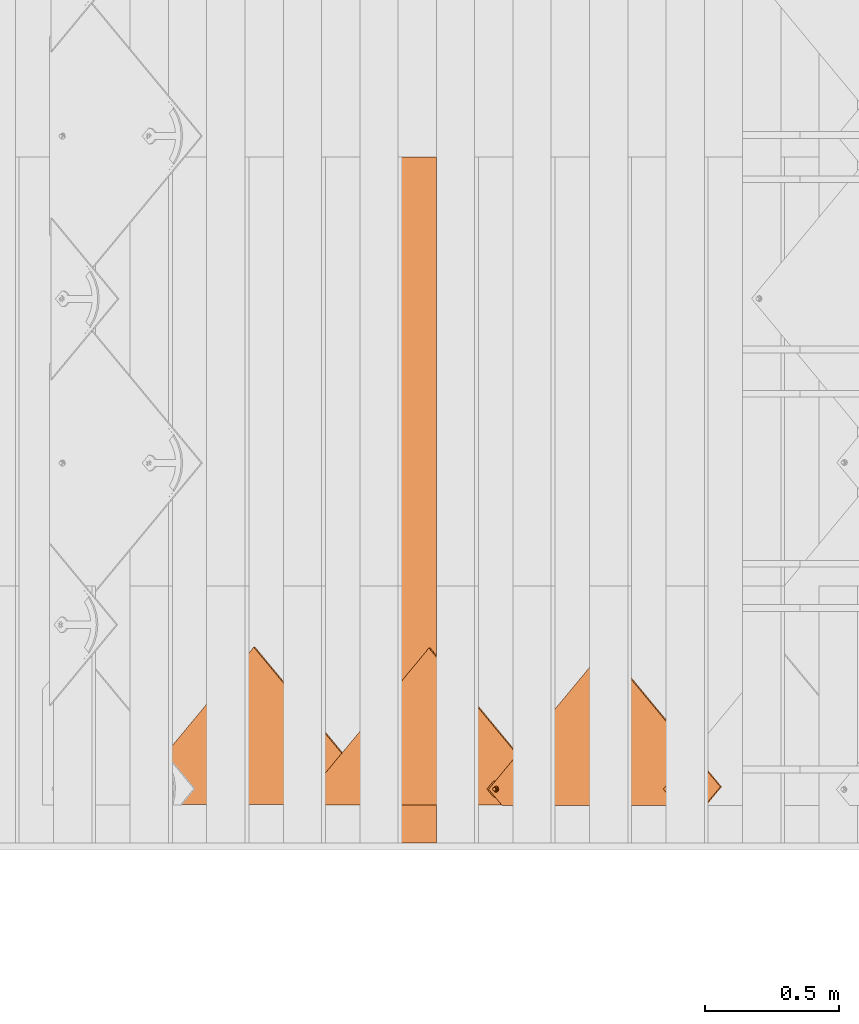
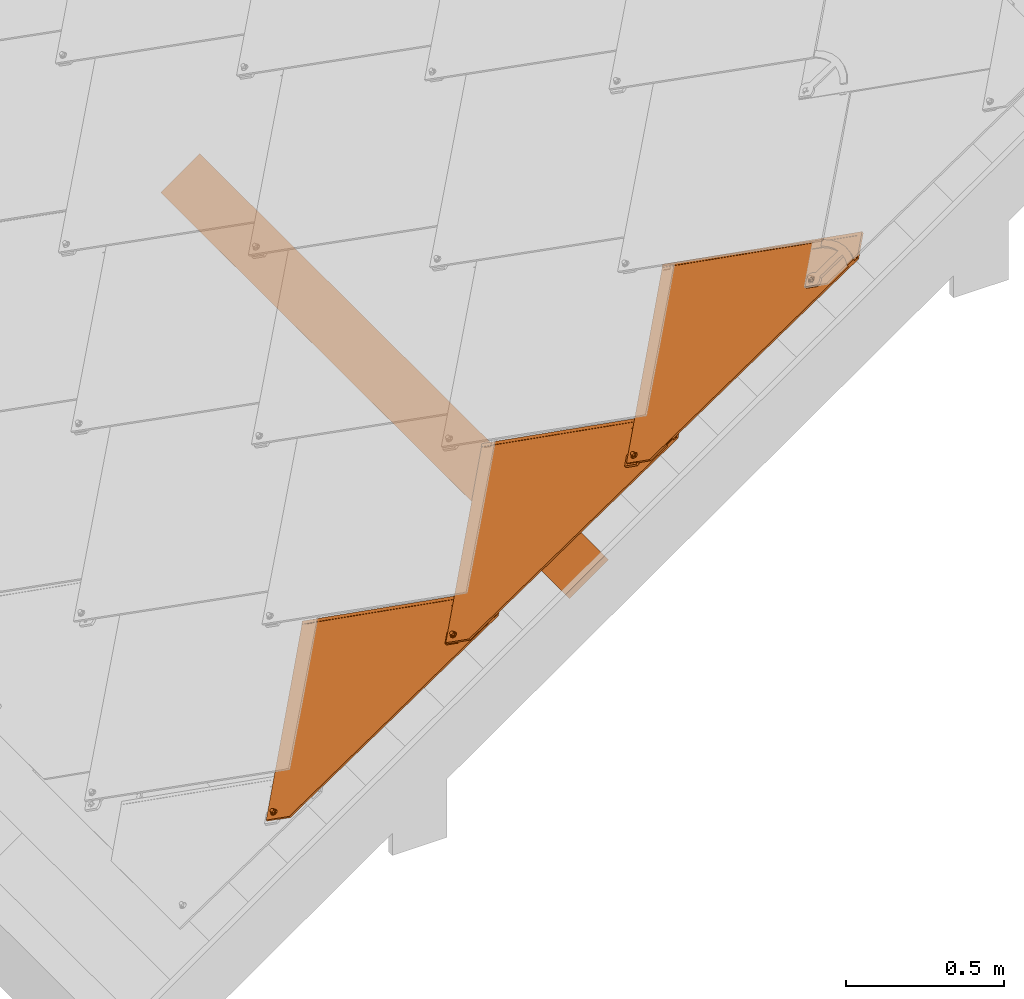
# One storey, part 10 of 133: 4 proxies, 1 element without a shape of its own.
"""IFC2X3 building model written with IfcOpenShell, lengths in millimetres."""

from ifc_helpers import new_model, entity, si_unit, converted_unit, derived_unit, direction, frame, frame_2d, origin, place, context, subcontext, project, spatial, rectangle, extrude, faceted_brep, source, transform, mapped, material, material_list, type_object, type_shapes, element, aggregate, save


model = new_model("IFC2X3")

# Units and contexts
model_context = context("Model", 3, precision=0.01, world=origin(), true_north=direction((6.12303176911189e-17, 1.0)))
body_context = subcontext(model_context, "Body", "Model", "MODEL_VIEW")
ifc_project = project(units=[si_unit("LENGTHUNIT", "METRE", prefix="MILLI"), si_unit("AREAUNIT", "SQUARE_METRE"), si_unit("VOLUMEUNIT", "CUBIC_METRE"), converted_unit("PLANEANGLEUNIT", "DEGREE", entity("IfcRatioMeasure", 0.0174532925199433), si_unit("PLANEANGLEUNIT", "RADIAN"), dimensions=[0, 0, 0, 0, 0, 0, 0]), si_unit("MASSUNIT", "GRAM", prefix="KILO"), derived_unit("MASSDENSITYUNIT", [(si_unit("MASSUNIT", "GRAM", prefix="KILO"), 1), (si_unit("LENGTHUNIT", "METRE"), -3)]), si_unit("TIMEUNIT", "SECOND"), si_unit("FREQUENCYUNIT", "HERTZ"), si_unit("THERMODYNAMICTEMPERATUREUNIT", "DEGREE_CELSIUS"), derived_unit("THERMALTRANSMITTANCEUNIT", [(si_unit("MASSUNIT", "GRAM", prefix="KILO"), 1), (si_unit("THERMODYNAMICTEMPERATUREUNIT", "KELVIN"), -1), (si_unit("TIMEUNIT", "SECOND"), -3)]), derived_unit("VOLUMETRICFLOWRATEUNIT", [(si_unit("LENGTHUNIT", "METRE"), 3), (si_unit("TIMEUNIT", "SECOND"), -1)]), si_unit("ELECTRICCURRENTUNIT", "AMPERE"), si_unit("ELECTRICVOLTAGEUNIT", "VOLT"), si_unit("POWERUNIT", "WATT"), si_unit("FORCEUNIT", "NEWTON", prefix="KILO"), si_unit("ILLUMINANCEUNIT", "LUX"), si_unit("LUMINOUSFLUXUNIT", "LUMEN"), si_unit("LUMINOUSINTENSITYUNIT", "CANDELA"), derived_unit("USERDEFINED", [(si_unit("MASSUNIT", "GRAM", prefix="KILO"), -1), (si_unit("LENGTHUNIT", "METRE"), -2), (si_unit("TIMEUNIT", "SECOND"), 3), (si_unit("LUMINOUSFLUXUNIT", "LUMEN"), 1)]), derived_unit("LINEARVELOCITYUNIT", [(si_unit("LENGTHUNIT", "METRE"), 1), (si_unit("TIMEUNIT", "SECOND"), -1)]), si_unit("PRESSUREUNIT", "PASCAL"), derived_unit("USERDEFINED", [(si_unit("LENGTHUNIT", "METRE"), -2), (si_unit("MASSUNIT", "GRAM", prefix="KILO"), 1), (si_unit("TIMEUNIT", "SECOND"), -2)])], contexts=[model_context])

# Site, building, storey
site_placement = place(None, origin())
site = spatial("IfcSite", under=ifc_project, at=site_placement, Name="Default", CompositionType="ELEMENT")
building_placement = place(site_placement, origin())
building = spatial("IfcBuilding", under=site, at=building_placement, CompositionType="ELEMENT")
storey_placement = place(building_placement, origin())
storey = spatial("IfcBuildingStorey", under=building, at=storey_placement, Name="Level 1", CompositionType="ELEMENT", Elevation=0.0)

# Assembly, proxy
assembly_placement = place(storey_placement, origin())
assembly = element("IfcElementAssembly", 1, at=assembly_placement, inside=storey, Name="Structural Framing Assembly:Roof Construction Assembly", ObjectType="Structural Framing Assembly:Roof Construction Assembly", AssemblyPlace="NOTDEFINED", PredefinedType="USERDEFINED")
ifc_material_1 = material(Name="Wood - Generic - Wood For Showcase")
building_element_proxy_type_1 = type_object("IfcBuildingElementProxyType", Name="Structural Framing 15", PredefinedType="NOTDEFINED", material=ifc_material_1)
shared_shape_1 = source(origin(), body_context, "Body", "SweptSolid", [
    extrude(rectangle(XDim=24.9999999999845, YDim=174.344679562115, at=frame_2d((-1.77635683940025e-13, -4.54747350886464e-13), x_axis=(0.0, 1.0))), frame((1128.20180147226, 1437.09519417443, 2760.23940055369), z_axis=(0.0, 1.0, 0.0), x_axis=(-0.819152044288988, 0.0, -0.573576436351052)), (0.0, 0.0, 1.0), 2558.4556079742),
])
type_shapes(building_element_proxy_type_1, [shared_shape_1])
proxy_1_placement = place(assembly_placement, frame((-2142.22201011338, -8140.0, -1500.0)))
proxy_1 = element("IfcBuildingElementProxy", 2, at=proxy_1_placement, type_object=building_element_proxy_type_1, material=ifc_material_1, Name="Structural Framing 93:Structural Framing 15", ObjectType="Structural Framing 93:Structural Framing 15", context=body_context, shape_type="MappedRepresentation", body=[
    mapped(shared_shape_1, transform((0.0, 0.0, 0.0), scale=1.0)),
])
aggregate(assembly, [proxy_1])

# Proxies
ifc_material_2 = material(Name="Rubber - Sunstyle - Black")
ifc_material_3 = material(Name="Glass - Sunstyle - Tainted Black")
ifc_material_list_1 = material_list([ifc_material_2, ifc_material_3])
ifc_material_list_2 = material_list([ifc_material_2, ifc_material_3])
building_element_proxy_type_2 = type_object("IfcBuildingElementProxyType", Name="Shingle Right - Black", PredefinedType="NOTDEFINED", material=ifc_material_list_2)
shared_shape_2 = source(origin(), body_context, "Body", "Brep", [
    faceted_brep([(526.70519509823, 41.3127833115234, 3.87722628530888), (520.930992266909, 37.9795131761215, 3.9330502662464), (520.930992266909, 38.34782226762, 25.9249196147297), (526.70519509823, 41.6810924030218, 25.8690956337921), (520.930992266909, 31.3129729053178, 4.0446982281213), (520.930992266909, 31.6812819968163, 26.0365675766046), (526.70519509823, 27.979702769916, 4.1005222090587), (526.70519509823, 28.3480118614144, 26.092391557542), (532.47939792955, 31.3129729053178, 4.04469822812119), (532.47939792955, 31.6812819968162, 26.0365675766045), (532.47939792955, 37.9795131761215, 3.93305026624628), (532.47939792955, 38.3478222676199, 25.9249196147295), (518.101490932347, 26.4120542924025, 26.1248140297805), (526.70519509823, 22.8487830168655, 26.1844899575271), (514.537719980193, 35.0145521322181, 25.9807435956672), (518.101490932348, 43.6170499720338, 25.8366731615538), (526.70519509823, 47.1803212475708, 25.776997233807), (535.308899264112, 43.6170499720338, 25.8366731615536), (538.872670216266, 35.0145521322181, 25.9807435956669), (535.308899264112, 26.4120542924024, 26.1248140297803), (515.380950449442, 37.3096292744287, 28.2935855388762), (516.94872054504, 35.0855670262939, 30.2210682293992), (526.70519509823, 42.3986422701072, 30.8537686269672), (526.70519509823, 43.6391399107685, 30.2734219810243), (526.70519509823, 45.7966907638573, 29.2640469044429), (526.70519509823, 23.4048270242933, 27.4595479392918), (526.70519509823, 24.3484036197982, 29.6232523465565), (526.70519509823, 27.7977793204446, 31.0982967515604), (526.70519509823, 46.6672851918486, 27.0699596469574), (520.381949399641, 31.4479950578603, 31.0371647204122), (520.381949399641, 38.7484265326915, 30.9149006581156), (538.029439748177, 32.7982090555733, 28.3691406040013), (536.554075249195, 34.0111605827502, 30.1422000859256), (533.028440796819, 38.7484265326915, 30.9149006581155), (533.028440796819, 31.4479950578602, 31.0371647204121), (520.381949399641, 31.5820235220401, 39.0400528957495), (526.70519509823, 27.9318077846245, 39.1011849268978), (526.70519509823, 35.2322392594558, 38.9789208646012), (520.381949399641, 38.8824549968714, 38.9177888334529), (533.028440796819, 31.5820235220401, 39.0400528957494), (533.028440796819, 38.8824549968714, 38.9177888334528), (526.70519509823, 42.532670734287, 38.8566568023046), (526.70519509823, 34.6462430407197, 3.98887424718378)], [[[0, 1, 2, 3]], [[1, 4, 5, 2]], [[4, 6, 7, 5]], [[6, 8, 9, 7]], [[8, 10, 11, 9]], [[10, 0, 3, 11]], [[12, 7, 13]], [[7, 12, 5]], [[14, 5, 12]], [[5, 14, 2]], [[15, 2, 14]], [[3, 2, 15]], [[15, 16, 3]], [[16, 17, 3]], [[11, 3, 17]], [[11, 17, 18]], [[9, 11, 18]], [[18, 19, 9]], [[7, 9, 19]], [[19, 13, 7]], [[20, 14, 12]], [[21, 22, 23, 24]], [[24, 20, 21]], [[25, 20, 12]], [[26, 27, 21]], [[15, 14, 20]], [[12, 13, 25]], [[20, 28, 15]], [[28, 20, 24]], [[21, 27, 29]], [[21, 29, 30]], [[26, 21, 20]], [[20, 25, 26]], [[15, 28, 16]], [[21, 30, 22]], [[31, 18, 17]], [[28, 31, 17]], [[32, 27, 26]], [[26, 31, 32]], [[26, 25, 31]], [[25, 19, 31]], [[17, 16, 28]], [[31, 19, 18]], [[24, 31, 28]], [[33, 34, 32]], [[23, 22, 33]], [[24, 32, 31]], [[27, 32, 34]], [[32, 23, 33]], [[19, 25, 13]], [[32, 24, 23]], [[35, 36, 37]], [[37, 38, 35]], [[36, 39, 37]], [[40, 37, 39]], [[37, 40, 41]], [[37, 41, 38]], [[42, 6, 4]], [[4, 1, 42]], [[1, 0, 42]], [[42, 8, 6]], [[0, 10, 42]], [[8, 42, 10]], [[22, 30, 38, 41]], [[30, 29, 35, 38]], [[29, 27, 36, 35]], [[27, 34, 39, 36]], [[34, 33, 40, 39]], [[33, 22, 41, 40]]]),
    faceted_brep([(526.70519509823, 811.19100538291, 21.4210230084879), (526.70519509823, 815.690374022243, 21.3456697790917), (518.101490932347, 814.754276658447, 21.3613470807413), (535.308899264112, 814.754276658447, 21.3613470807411), (533.345423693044, 819.523574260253, 21.2814732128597), (538.872670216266, 823.356774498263, 21.2172766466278), (533.345423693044, 827.189974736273, 21.1530800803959), (535.308899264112, 831.959272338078, 21.0732062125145), (526.70519509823, 831.023174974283, 21.0888835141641), (526.70519509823, 835.522543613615, 21.0135302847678), (518.101490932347, 831.959272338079, 21.0732062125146), (520.064966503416, 827.189974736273, 21.1530800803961), (514.537719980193, 823.356774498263, 21.217276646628), (520.064966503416, 819.523574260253, 21.2814732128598), (520.064966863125, 826.922051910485, 5.15532344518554), (526.70519509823, 830.755251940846, 5.09112688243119), (520.064966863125, 819.255651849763, 5.2837165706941), (526.70519509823, 815.422451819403, 5.34791313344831), (533.345423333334, 819.255651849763, 5.28371657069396), (533.345423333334, 826.922051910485, 5.1553234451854), (518.101490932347, 814.486354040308, 5.36359044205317), (526.70519509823, 810.923082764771, 5.4232663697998), (514.537719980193, 823.088851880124, 5.21952000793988), (518.101490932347, 831.69134971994, 5.07544957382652), (526.70519509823, 835.254620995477, 5.01577364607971), (535.308899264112, 831.69134971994, 5.07544957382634), (538.872670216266, 823.088851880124, 5.21952000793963), (535.308899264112, 814.486354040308, 5.36359044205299)], [[[0, 1, 2]], [[1, 0, 3]], [[3, 4, 1]], [[4, 3, 5]], [[6, 4, 5]], [[5, 7, 6]], [[7, 8, 6]], [[8, 7, 9]], [[8, 9, 10]], [[10, 11, 8]], [[12, 11, 10]], [[2, 13, 12]], [[12, 13, 11]], [[13, 2, 1]], [[8, 11, 14, 15]], [[11, 13, 16, 14]], [[13, 1, 17, 16]], [[1, 4, 18, 17]], [[4, 6, 19, 18]], [[6, 8, 15, 19]], [[20, 17, 21]], [[17, 20, 16]], [[22, 16, 20]], [[14, 16, 22]], [[23, 14, 22]], [[15, 14, 23]], [[23, 24, 15]], [[24, 25, 15]], [[19, 15, 25]], [[19, 25, 26]], [[26, 18, 19]], [[26, 27, 18]], [[17, 18, 27]], [[27, 21, 17]], [[24, 23, 10, 9]], [[10, 23, 22, 12]], [[20, 21, 0, 2]], [[20, 2, 12, 22]], [[21, 27, 3, 0]], [[3, 27, 26, 5]], [[25, 24, 9, 7]], [[25, 7, 5, 26]]]),
    faceted_brep([(578.30986553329, 967.15023469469, 8.79467739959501), (586.794551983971, 975.634921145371, 8.65258001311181), (586.794551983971, 975.660038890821, 10.1523696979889), (578.30986553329, 967.17535244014, 10.294467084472), (517.891471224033, 1027.55168765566, 7.7831033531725), (8.48468645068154, 518.287740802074, 16.3120073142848), (0.0, 526.772427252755, 16.1699099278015), (517.891471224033, 1044.51868144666, 7.49894842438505), (517.891471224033, 1044.54379919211, 8.99873810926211), (0.0, 526.797544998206, 17.6696996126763), (8.4846864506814, 518.312858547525, 17.8117969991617), (517.891471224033, 1027.57680540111, 9.28289303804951)], [[[0, 1, 2, 3]], [[1, 0, 4, 5, 6, 7]], [[2, 1, 7, 8]], [[3, 2, 8, 9, 10, 11]], [[0, 3, 11, 4]], [[5, 10, 9, 6]], [[8, 7, 6, 9]], [[4, 11, 10, 5]]]),
    faceted_brep([(586.794551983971, 975.634921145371, 8.65258001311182), (517.891471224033, 1044.51868144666, 7.49894842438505), (523.812678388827, 834.561085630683, 11.0152157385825), (526.918506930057, 834.969918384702, 11.0083688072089), (530.024335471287, 834.561085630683, 11.0152157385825), (532.918506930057, 833.362448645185, 11.0352899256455), (535.403788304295, 831.455692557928, 11.0672233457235), (537.31081177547, 828.970759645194, 11.1088397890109), (538.509616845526, 826.076993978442, 11.1573031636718), (538.918506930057, 822.971600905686, 11.2093107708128), (538.509616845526, 819.86620783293, 11.2613183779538), (586.79455198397, 60.1087646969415, 23.9853651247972), (520.918506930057, 833.362448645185, 11.0352899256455), (518.433225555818, 831.455692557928, 11.0672233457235), (516.526202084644, 828.970759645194, 11.1088397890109), (515.327397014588, 826.076993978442, 11.1573031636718), (0.0, 526.772427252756, 16.1699099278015), (514.918506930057, 822.971600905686, 11.2093107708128), (515.327397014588, 819.86620783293, 11.2613183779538), (516.526202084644, 816.972442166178, 11.3097817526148), (518.433225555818, 814.487509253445, 11.3513981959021), (520.918506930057, 812.580753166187, 11.3833316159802), (523.812678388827, 811.382116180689, 11.4034058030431), (524.667140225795, 42.642731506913, 24.2778777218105), (522.737692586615, 41.8436401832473, 24.2912605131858), (521.080838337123, 40.572469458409, 24.3125494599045), (519.80948935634, 38.9158475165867, 24.3402937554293), (519.010285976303, 36.9866704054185, 24.37260267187), (518.737692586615, 34.9164083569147, 24.407274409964), (519.010285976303, 32.8461463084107, 24.441946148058), (526.794551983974, 0.125588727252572, 24.989934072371), (519.80948935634, 30.9169691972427, 24.4742550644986), (533.665895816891, 30.9169691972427, 24.4742550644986), (532.394546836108, 29.2603472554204, 24.5019993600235), (530.737692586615, 27.9891765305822, 24.5232883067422), (528.808244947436, 27.1900852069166, 24.5366710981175), (526.737692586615, 26.9175300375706, 24.5412357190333), (524.667140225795, 27.1900852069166, 24.5366710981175), (522.737692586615, 27.9891765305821, 24.5232883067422), (521.080838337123, 29.2603472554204, 24.5019993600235), (526.737692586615, 42.9152866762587, 24.2733131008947), (528.808244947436, 42.6427315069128, 24.2778777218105), (530.737692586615, 41.8436401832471, 24.2912605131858), (532.394546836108, 40.572469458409, 24.3125494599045), (533.665895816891, 38.9158475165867, 24.3402937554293), (534.465099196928, 36.9866704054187, 24.37260267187), (534.737692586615, 34.9164083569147, 24.407274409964), (534.465099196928, 32.8461463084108, 24.441946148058), (526.918506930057, 810.97328342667, 11.4102527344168), (537.31081177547, 816.972442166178, 11.3097817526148), (535.403788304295, 814.487509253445, 11.3513981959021), (532.918506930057, 812.580753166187, 11.3833316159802), (530.024335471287, 811.382116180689, 11.4034058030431), (0.0, 526.646838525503, 8.67096150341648), (519.80948935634, 38.790258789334, 16.8413453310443), (519.010285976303, 36.8610816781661, 16.8736542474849), (521.080838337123, 40.4468807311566, 16.8136010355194), (518.737692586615, 34.7908196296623, 16.9083259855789), (519.010285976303, 32.7205575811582, 16.9429977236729), (526.794551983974, 0.0, 17.4909856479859), (522.737692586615, 41.7180514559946, 16.7923120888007), (524.667140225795, 42.5171427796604, 16.7789292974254), (523.812678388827, 811.256527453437, 3.90445737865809), (520.918506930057, 812.455164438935, 3.88438319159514), (518.433225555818, 814.361920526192, 3.85244977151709), (516.526202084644, 816.846853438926, 3.81083332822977), (515.327397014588, 819.740619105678, 3.76236995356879), (514.918506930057, 822.846012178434, 3.71036234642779), (515.327397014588, 825.95140525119, 3.65835473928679), (517.891471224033, 1044.39309271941, 0.0), (516.526202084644, 828.845170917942, 3.60989136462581), (518.433225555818, 831.330103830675, 3.56827492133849), (520.918506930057, 833.236859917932, 3.53634150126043), (523.812678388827, 834.435496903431, 3.51626731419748), (586.794551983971, 975.509332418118, 1.15363158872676), (526.918506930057, 834.84432965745, 3.50942038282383), (530.024335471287, 834.435496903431, 3.51626731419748), (532.918506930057, 833.236859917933, 3.53634150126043), (535.403788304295, 831.330103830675, 3.56827492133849), (537.31081177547, 828.845170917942, 3.60989136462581), (538.509616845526, 825.95140525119, 3.65835473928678), (538.918506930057, 822.846012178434, 3.71036234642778), (538.509616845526, 819.740619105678, 3.76236995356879), (586.79455198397, 59.983175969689, 16.4864167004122), (526.737692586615, 42.7896979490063, 16.7743646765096), (528.808244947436, 42.5171427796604, 16.7789292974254), (530.737692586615, 41.7180514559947, 16.7923120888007), (532.394546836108, 40.4468807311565, 16.8136010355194), (533.665895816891, 30.7913804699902, 16.9753066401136), (534.465099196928, 32.7205575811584, 16.9429977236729), (534.737692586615, 34.7908196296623, 16.9083259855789), (534.465099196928, 36.8610816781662, 16.8736542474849), (533.665895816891, 38.7902587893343, 16.8413453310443), (526.918506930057, 810.847694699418, 3.91130431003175), (530.024335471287, 811.256527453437, 3.90445737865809), (532.918506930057, 812.455164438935, 3.88438319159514), (535.403788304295, 814.361920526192, 3.85244977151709), (537.31081177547, 816.846853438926, 3.81083332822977), (519.80948935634, 30.7913804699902, 16.9753066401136), (521.080838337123, 29.134758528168, 17.0030509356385), (522.737692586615, 27.8635878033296, 17.0243398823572), (524.667140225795, 27.0644964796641, 17.0377226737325), (526.737692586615, 26.7919413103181, 17.0422872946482), (528.808244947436, 27.0644964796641, 17.0377226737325), (530.737692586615, 27.8635878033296, 17.0243398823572), (532.394546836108, 29.1347585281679, 17.0030509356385)], [[[0, 1, 2]], [[0, 2, 3]], [[3, 4, 0]], [[4, 5, 0]], [[0, 5, 6]], [[6, 7, 0]], [[7, 8, 0]], [[8, 9, 0]], [[9, 10, 0]], [[0, 10, 11]], [[2, 1, 12]], [[13, 12, 1]], [[14, 13, 1]], [[14, 1, 15]], [[15, 1, 16]], [[16, 17, 15]], [[17, 16, 18]], [[19, 18, 16]], [[19, 16, 20]], [[21, 20, 16]], [[22, 21, 16]], [[23, 22, 16]], [[24, 23, 16]], [[16, 25, 24]], [[25, 16, 26]], [[26, 16, 27]], [[28, 27, 16]], [[28, 16, 29]], [[29, 16, 30]], [[30, 31, 29]], [[11, 32, 30]], [[30, 32, 33]], [[34, 30, 33]], [[34, 35, 30]], [[36, 30, 35]], [[30, 36, 37]], [[37, 38, 30]], [[38, 39, 30]], [[39, 31, 30]], [[23, 11, 22]], [[11, 23, 40]], [[11, 40, 41]], [[11, 41, 42]], [[42, 43, 11]], [[44, 11, 43]], [[44, 45, 11]], [[45, 46, 11]], [[47, 11, 46]], [[11, 47, 32]], [[22, 11, 48]], [[10, 49, 11]], [[49, 50, 11]], [[50, 51, 11]], [[51, 52, 11]], [[52, 48, 11]], [[53, 54, 55]], [[54, 53, 56]], [[53, 55, 57]], [[57, 58, 53]], [[53, 58, 59]], [[60, 56, 53]], [[61, 60, 53]], [[61, 53, 62]], [[62, 53, 63]], [[53, 64, 63]], [[64, 53, 65]], [[65, 53, 66]], [[66, 53, 67]], [[67, 53, 68]], [[53, 69, 68]], [[70, 68, 69]], [[71, 70, 69]], [[69, 72, 71]], [[73, 72, 69]], [[73, 69, 74]], [[75, 73, 74]], [[75, 74, 76]], [[77, 76, 74]], [[74, 78, 77]], [[79, 78, 74]], [[80, 79, 74]], [[80, 74, 81]], [[81, 74, 82]], [[82, 74, 83]], [[84, 61, 83]], [[83, 85, 84]], [[86, 85, 83]], [[83, 87, 86]], [[59, 88, 83]], [[83, 88, 89]], [[90, 83, 89]], [[90, 91, 83]], [[91, 92, 83]], [[87, 83, 92]], [[62, 83, 61]], [[93, 83, 62]], [[83, 93, 94]], [[94, 95, 83]], [[83, 95, 96]], [[96, 97, 83]], [[97, 82, 83]], [[59, 58, 98]], [[99, 59, 98]], [[99, 100, 59]], [[100, 101, 59]], [[102, 59, 101]], [[59, 102, 103]], [[59, 103, 104]], [[104, 105, 59]], [[105, 88, 59]], [[16, 1, 69, 53]], [[30, 16, 53, 59]], [[11, 30, 59, 83]], [[1, 0, 74, 69]], [[28, 57, 55, 27]], [[27, 55, 54, 26]], [[24, 25, 56, 60]], [[56, 25, 26, 54]], [[23, 24, 60, 61]], [[23, 61, 84, 40]], [[40, 84, 85, 41]], [[41, 85, 86, 42]], [[44, 43, 87, 92]], [[87, 43, 42, 86]], [[45, 44, 92, 91]], [[45, 91, 90, 46]], [[46, 90, 89, 47]], [[47, 89, 88, 32]], [[34, 33, 105, 104]], [[105, 33, 32, 88]], [[35, 34, 104, 103]], [[35, 103, 102, 36]], [[36, 102, 101, 37]], [[37, 101, 100, 38]], [[31, 39, 99, 98]], [[39, 38, 100, 99]], [[58, 29, 31, 98]], [[29, 58, 57, 28]], [[17, 67, 68, 15]], [[15, 68, 70, 14]], [[12, 13, 71, 72]], [[71, 13, 14, 70]], [[2, 12, 72, 73]], [[2, 73, 75, 3]], [[3, 75, 76, 4]], [[4, 76, 77, 5]], [[7, 6, 78, 79]], [[78, 6, 5, 77]], [[8, 7, 79, 80]], [[8, 80, 81, 9]], [[9, 81, 82, 10]], [[10, 82, 97, 49]], [[51, 50, 96, 95]], [[96, 50, 49, 97]], [[52, 51, 95, 94]], [[52, 94, 93, 48]], [[48, 93, 62, 22]], [[22, 62, 63, 21]], [[19, 20, 64, 65]], [[64, 20, 21, 63]], [[18, 19, 65, 66]], [[18, 66, 67, 17]], [[0, 11, 83, 74]]]),
    faceted_brep([(503.195324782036, 841.557074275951, 20.8994526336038), (517.914693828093, 832.008099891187, 21.0593741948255), (507.695869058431, 846.190079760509, 20.8218613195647), (516.007670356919, 829.523166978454, 21.1009906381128), (499.815755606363, 836.052923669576, 20.9916334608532), (514.808865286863, 826.629401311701, 21.1494540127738), (497.720422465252, 829.943523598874, 21.0939507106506), (514.399975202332, 823.524008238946, 21.2014616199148), (497.010547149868, 823.524008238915, 21.2014616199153), (514.808865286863, 820.41861516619, 21.2534692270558), (516.007670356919, 817.524849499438, 21.3019326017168), (517.914693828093, 815.039916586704, 21.3435490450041), (526.399975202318, 794.138700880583, 21.6935924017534), (520.399975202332, 813.133160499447, 21.3754824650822), (523.294146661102, 811.934523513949, 21.3955566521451), (526.399975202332, 811.52569075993, 21.4024035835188), (529.505803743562, 811.934523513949, 21.3955566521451), (532.399975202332, 813.133160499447, 21.3754824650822), (534.885256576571, 815.039916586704, 21.3435490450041), (555.789403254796, 823.524008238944, 21.2014616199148), (536.792280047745, 817.524849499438, 21.3019326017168), (537.991085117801, 820.41861516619, 21.2534692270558), (538.399975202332, 823.524008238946, 21.2014616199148), (555.079527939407, 829.943523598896, 21.0939507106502), (537.991085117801, 826.629401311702, 21.1494540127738), (552.984194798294, 836.052923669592, 20.9916334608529), (536.792280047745, 829.523166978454, 21.1009906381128), (549.604625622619, 841.557074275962, 20.8994526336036), (534.88525657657, 832.008099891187, 21.0593741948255), (545.104081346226, 846.190079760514, 20.8218613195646), (532.399975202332, 833.914855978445, 21.0274407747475), (539.69997520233, 849.728127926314, 20.7626078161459), (529.505803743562, 835.113492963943, 21.0073665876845), (526.399975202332, 835.522325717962, 21.0005196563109), (513.09997520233, 849.728127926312, 20.762607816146), (513.099975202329, 947.789128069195, 19.1203300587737), (539.699975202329, 948.373752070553, 19.1105390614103), (522.252457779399, 973.425526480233, 18.6909841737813), (556.520926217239, 971.308509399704, 18.7264389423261), (565.239246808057, 944.126992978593, 19.1816617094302), (589.568348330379, 961.999667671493, 18.8823388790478), (589.568348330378, 935.274464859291, 19.3299195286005), (488.310294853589, 968.25512753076, 18.7775754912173), (488.729131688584, 942.717602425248, 19.2052654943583), (456.227055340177, 956.030775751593, 18.9823029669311), (465.633151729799, 933.432284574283, 19.3607714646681), (444.534595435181, 920.223666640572, 19.5819829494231), (427.451419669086, 937.304447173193, 19.2959223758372), (520.399975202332, 833.914855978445, 21.0274407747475), (523.294146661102, 835.113492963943, 21.0073665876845), (526.399975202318, 793.971249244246, 11.6949945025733), (526.399975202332, 811.358239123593, 11.4038056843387), (529.505803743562, 811.767071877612, 11.396958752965), (523.294146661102, 811.767071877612, 11.396958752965), (532.399975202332, 812.96570886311, 11.3768845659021), (534.885256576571, 814.872464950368, 11.344951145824), (555.789403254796, 823.356556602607, 11.2028637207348), (520.399975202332, 812.96570886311, 11.3768845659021), (517.914693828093, 814.872464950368, 11.344951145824), (497.010547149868, 823.356556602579, 11.2028637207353), (516.007670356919, 817.357397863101, 11.3033347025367), (514.808865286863, 820.251163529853, 11.2548713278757), (514.399975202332, 823.356556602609, 11.2028637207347), (497.720422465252, 829.776071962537, 11.0953528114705), (514.808865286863, 826.461949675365, 11.1508561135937), (499.815755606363, 835.885472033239, 10.9930355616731), (516.007670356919, 829.355715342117, 11.1023927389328), (503.195324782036, 841.389622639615, 10.9008547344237), (517.914693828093, 831.84064825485, 11.0607762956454), (507.695869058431, 846.022628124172, 10.8232634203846), (520.399975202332, 833.747404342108, 11.0288428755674), (513.09997520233, 849.560676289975, 10.7640099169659), (523.294146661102, 834.946041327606, 11.0087686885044), (526.399975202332, 835.354874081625, 11.0019217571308), (539.69997520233, 849.560676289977, 10.7640099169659), (513.099975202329, 947.621676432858, 9.12173215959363), (539.69997520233, 948.206300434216, 9.11194116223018), (522.252457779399, 973.258074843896, 8.69238627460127), (488.310294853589, 968.087675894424, 8.77897759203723), (488.729131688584, 942.550150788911, 9.20666759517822), (456.227055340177, 955.863324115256, 8.98370506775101), (465.633151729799, 933.264832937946, 9.36217356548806), (444.533467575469, 920.055518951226, 9.58339670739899), (428.044288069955, 936.544210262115, 9.30725215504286), (421.793762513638, 931.184466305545, 9.39701453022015), (415.826529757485, 925.515365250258, 9.49195786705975), (418.207622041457, 893.733364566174, 10.0242272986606), (401.122816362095, 910.815774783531, 9.73813943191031), (427.451419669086, 937.136995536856, 9.29732447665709), (556.520926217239, 971.141057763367, 8.727841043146), (565.239246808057, 943.959541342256, 9.18306381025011), (589.568348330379, 961.832216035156, 8.88374097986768), (589.568348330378, 935.107013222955, 9.33132162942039), (529.505803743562, 834.946041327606, 11.0087686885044), (532.399975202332, 833.747404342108, 11.0288428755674), (545.104081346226, 846.022628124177, 10.8232634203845), (534.88525657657, 831.84064825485, 11.0607762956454), (549.604625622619, 841.389622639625, 10.9008547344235), (536.792280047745, 829.355715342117, 11.1023927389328), (552.984194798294, 835.885472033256, 10.9930355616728), (537.991085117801, 826.461949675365, 11.1508561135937), (555.079527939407, 829.77607196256, 11.0953528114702), (538.399975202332, 823.356556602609, 11.2028637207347), (537.991085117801, 820.251163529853, 11.2548713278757), (536.792280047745, 817.357397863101, 11.3033347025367), (415.826529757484, 925.557228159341, 11.9916073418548), (401.122816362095, 910.857637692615, 12.2377889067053), (418.207622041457, 893.775227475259, 12.5238767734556), (444.534595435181, 920.09807791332, 12.083034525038), (428.042008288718, 936.584216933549, 11.8069327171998), (421.793762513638, 931.226329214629, 11.8966640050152)], [[[0, 1, 2]], [[3, 1, 0]], [[4, 3, 0]], [[5, 3, 4]], [[4, 6, 5]], [[6, 7, 5]], [[7, 6, 8]], [[9, 7, 8]], [[10, 9, 8]], [[10, 8, 11]], [[8, 12, 11]], [[13, 11, 12]], [[13, 12, 14]], [[12, 15, 14]], [[15, 12, 16]], [[16, 12, 17]], [[18, 17, 12]], [[18, 12, 19]], [[19, 20, 18]], [[21, 20, 19]], [[22, 21, 19]], [[19, 23, 22]], [[24, 22, 23]], [[23, 25, 24]], [[25, 26, 24]], [[26, 25, 27]], [[28, 26, 27]], [[27, 29, 28]], [[30, 28, 29]], [[29, 31, 30]], [[30, 31, 32]], [[32, 31, 33]], [[31, 34, 33]], [[35, 34, 31]], [[35, 31, 36]], [[36, 37, 35]], [[36, 38, 37]], [[39, 38, 36]], [[38, 39, 40]], [[41, 40, 39]], [[37, 42, 35]], [[35, 42, 43]], [[43, 42, 44]], [[44, 45, 43]], [[44, 46, 45]], [[46, 44, 47]], [[48, 34, 2]], [[48, 49, 34]], [[34, 49, 33]], [[48, 2, 1]], [[50, 51, 52]], [[51, 50, 53]], [[50, 52, 54]], [[54, 55, 50]], [[50, 55, 56]], [[57, 53, 50]], [[58, 57, 50]], [[58, 50, 59]], [[59, 60, 58]], [[60, 59, 61]], [[61, 59, 62]], [[63, 62, 59]], [[64, 62, 63]], [[63, 65, 64]], [[64, 65, 66]], [[65, 67, 66]], [[68, 66, 67]], [[69, 68, 67]], [[69, 70, 68]], [[70, 69, 71]], [[71, 72, 70]], [[71, 73, 72]], [[74, 73, 71]], [[71, 75, 74]], [[75, 76, 74]], [[76, 75, 77]], [[77, 75, 78]], [[79, 78, 75]], [[80, 78, 79]], [[79, 81, 80]], [[81, 82, 80]], [[82, 83, 80]], [[84, 83, 82]], [[84, 82, 85]], [[82, 86, 85]], [[86, 87, 85]], [[83, 88, 80]], [[76, 77, 89]], [[89, 90, 76]], [[90, 89, 91]], [[91, 92, 90]], [[93, 73, 74]], [[74, 94, 93]], [[94, 74, 95]], [[95, 96, 94]], [[95, 97, 96]], [[96, 97, 98]], [[99, 98, 97]], [[99, 100, 98]], [[101, 100, 99]], [[102, 100, 101]], [[56, 102, 101]], [[103, 102, 56]], [[56, 55, 104]], [[103, 56, 104]], [[34, 35, 75, 71]], [[2, 34, 71, 69]], [[0, 2, 69, 67]], [[67, 65, 4, 0]], [[6, 4, 65, 63]], [[8, 6, 63, 59]], [[12, 8, 59, 50]], [[19, 12, 50, 56]], [[23, 19, 56, 101]], [[25, 23, 101, 99]], [[99, 97, 27, 25]], [[29, 27, 97, 95]], [[31, 29, 95, 74]], [[36, 31, 74, 76]], [[38, 40, 91, 89]], [[37, 38, 89, 77]], [[77, 78, 42, 37]], [[44, 42, 78, 80]], [[47, 44, 80, 88]], [[7, 62, 64, 5]], [[5, 64, 66, 3]], [[48, 1, 68, 70]], [[66, 68, 1, 3]], [[49, 48, 70, 72]], [[73, 33, 49, 72]], [[32, 93, 94, 30]], [[30, 94, 96, 28]], [[24, 26, 98, 100]], [[96, 98, 26, 28]], [[22, 24, 100, 102]], [[32, 33, 73, 93]], [[22, 102, 103, 21]], [[21, 103, 104, 20]], [[17, 18, 55, 54]], [[104, 55, 18, 20]], [[16, 17, 54, 52]], [[51, 15, 16, 52]], [[14, 53, 57, 13]], [[13, 57, 58, 11]], [[9, 10, 60, 61]], [[58, 60, 10, 11]], [[7, 9, 61, 62]], [[14, 15, 51, 53]], [[105, 106, 107, 108, 109, 110]], [[107, 106, 87, 86]], [[108, 107, 82]], [[86, 82, 107]], [[109, 83, 110]], [[110, 83, 84]], [[84, 85, 105, 110]], [[106, 105, 85, 87]], [[46, 47, 109]], [[109, 47, 88]], [[46, 109, 108]], [[83, 109, 88]], [[108, 81, 45, 46]], [[108, 82, 81]], [[79, 75, 35, 43]], [[81, 79, 43, 45]], [[76, 90, 39, 36]], [[92, 41, 39, 90]], [[40, 41, 92, 91]]]),
])
type_shapes(building_element_proxy_type_2, [shared_shape_2])
proxy_2_placement = place(storey_placement, frame((-740.681213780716, -5975.90745302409, 1467.05076182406), z_axis=(-0.57357643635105, 0.0, 0.819152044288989), x_axis=(0.0, -1.0, 0.0)))
element("IfcBuildingElementProxy", 3, at=proxy_2_placement, inside=storey, type_object=building_element_proxy_type_2, material=ifc_material_list_1, Name="Roofing_Panels_SunStyle_Tile_Shingle-Right:Shingle Right - Black", ObjectType="Roofing_Panels_SunStyle_Tile_Shingle-Right:Shingle Right - Black", context=body_context, shape_type="MappedRepresentation", body=[
    mapped(shared_shape_2, transform((0.0, 0.0, 0.0), scale=1.0)),
])
ifc_material_list_3 = material_list([ifc_material_2, ifc_material_3])
proxy_3_placement = place(storey_placement, frame((-1399.43120160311, -5975.69961072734, 1005.78905455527), z_axis=(-0.57357643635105, 0.0, 0.819152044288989), x_axis=(0.0, -1.0, 0.0)))
element("IfcBuildingElementProxy", 4, at=proxy_3_placement, inside=storey, type_object=building_element_proxy_type_2, material=ifc_material_list_3, Name="Roofing_Panels_SunStyle_Tile_Shingle-Right:Shingle Right - Black", ObjectType="Roofing_Panels_SunStyle_Tile_Shingle-Right:Shingle Right - Black", context=body_context, shape_type="MappedRepresentation", body=[
    mapped(shared_shape_2, transform((0.0, 0.0, 0.0), scale=1.0)),
])
ifc_material_list_4 = material_list([ifc_material_2, ifc_material_3])
proxy_4_placement = place(storey_placement, frame((-2052.73921486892, -5972.38356758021, 548.337858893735), z_axis=(-0.57357643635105, 0.0, 0.819152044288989), x_axis=(0.0, -1.0, 0.0)))
element("IfcBuildingElementProxy", 5, at=proxy_4_placement, inside=storey, type_object=building_element_proxy_type_2, material=ifc_material_list_4, Name="Roofing_Panels_SunStyle_Tile_Shingle-Right:Shingle Right - Black", ObjectType="Roofing_Panels_SunStyle_Tile_Shingle-Right:Shingle Right - Black", context=body_context, shape_type="MappedRepresentation", body=[
    mapped(shared_shape_2, transform((0.0, 0.0, 0.0), scale=1.0)),
])

save(model, "model.ifc")
